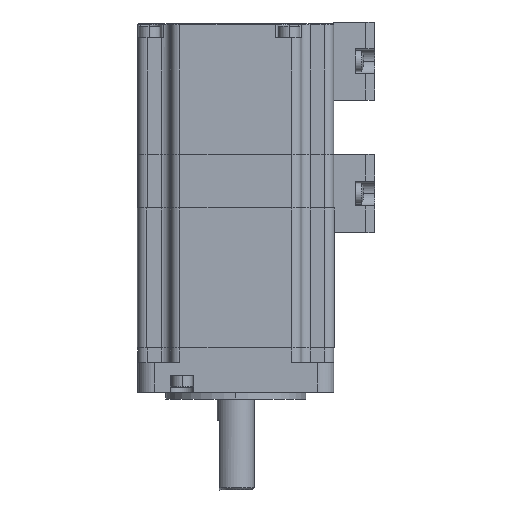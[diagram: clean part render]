
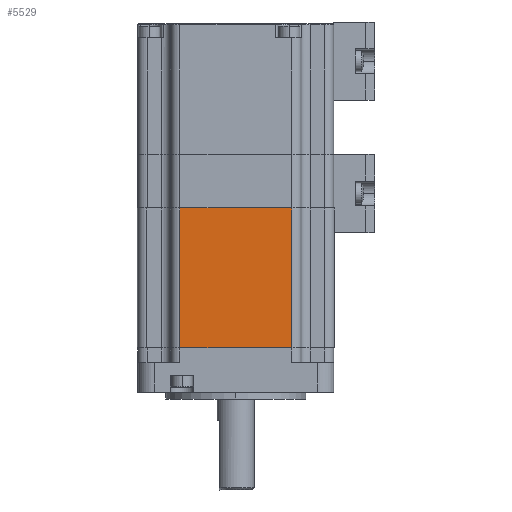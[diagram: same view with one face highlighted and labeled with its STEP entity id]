
A CAD part, left-side view. The second image highlights one B-rep face of the part: STEP entity #5529.
In plain terms, the highlighted planar face has unit normal (-1, 0, 0).
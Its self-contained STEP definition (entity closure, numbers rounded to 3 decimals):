
#194 = VECTOR ( 'NONE', #11176, 1000. ) ;
#822 = LINE ( 'NONE', #8035, #10528 ) ;
#1024 = VERTEX_POINT ( 'NONE', #10308 ) ;
#2651 = CARTESIAN_POINT ( 'NONE',  ( -35.783, 26.542, 0. ) ) ;
#2852 = EDGE_CURVE ( 'NONE', #4892, #7089, #822, .T. ) ;
#2923 = ORIENTED_EDGE ( 'NONE', *, *, #11202, .F. ) ;
#3197 = CARTESIAN_POINT ( 'NONE',  ( -35.783, 2.542, 30. ) ) ;
#4451 = VECTOR ( 'NONE', #8902, 1000. ) ;
#4892 = VERTEX_POINT ( 'NONE', #8899 ) ;
#5529 = ADVANCED_FACE ( 'NONE', ( #8159 ), #14706, .T. ) ;
#5841 = EDGE_CURVE ( 'NONE', #1024, #7089, #7967, .T. ) ;
#6248 = LINE ( 'NONE', #3197, #6663 ) ;
#6663 = VECTOR ( 'NONE', #12475, 1000. ) ;
#7089 = VERTEX_POINT ( 'NONE', #14825 ) ;
#7967 = LINE ( 'NONE', #9771, #4451 ) ;
#8035 = CARTESIAN_POINT ( 'NONE',  ( -35.783, 2.542, 0. ) ) ;
#8159 = FACE_OUTER_BOUND ( 'NONE', #16978, .T. ) ;
#8899 = CARTESIAN_POINT ( 'NONE',  ( -35.783, 2.542, 30. ) ) ;
#8902 = DIRECTION ( 'NONE',  ( 0., -1., 0. ) ) ;
#9734 = LINE ( 'NONE', #16310, #194 ) ;
#9771 = CARTESIAN_POINT ( 'NONE',  ( -35.783, 2.542, 0. ) ) ;
#10010 = CARTESIAN_POINT ( 'NONE',  ( -35.783, 26.542, 30. ) ) ;
#10114 = ORIENTED_EDGE ( 'NONE', *, *, #5841, .T. ) ;
#10308 = CARTESIAN_POINT ( 'NONE',  ( -35.783, 26.542, 0. ) ) ;
#10528 = VECTOR ( 'NONE', #14656, 1000. ) ;
#10577 = DIRECTION ( 'NONE',  ( 0., 0., 1. ) ) ;
#11176 = DIRECTION ( 'NONE',  ( 0., 0., -1. ) ) ;
#11202 = EDGE_CURVE ( 'NONE', #17069, #4892, #6248, .T. ) ;
#12475 = DIRECTION ( 'NONE',  ( 0., -1., 0. ) ) ;
#13302 = ORIENTED_EDGE ( 'NONE', *, *, #13866, .T. ) ;
#13866 = EDGE_CURVE ( 'NONE', #17069, #1024, #9734, .T. ) ;
#14656 = DIRECTION ( 'NONE',  ( 0., 0., -1. ) ) ;
#14706 = PLANE ( 'NONE',  #16077 ) ;
#14825 = CARTESIAN_POINT ( 'NONE',  ( -35.783, 2.542, 0. ) ) ;
#15860 = DIRECTION ( 'NONE',  ( -1., 0., 0. ) ) ;
#16077 = AXIS2_PLACEMENT_3D ( 'NONE', #2651, #15860, #10577 ) ;
#16310 = CARTESIAN_POINT ( 'NONE',  ( -35.783, 26.542, 0. ) ) ;
#16978 = EDGE_LOOP ( 'NONE', ( #10114, #17112, #2923, #13302 ) ) ;
#17069 = VERTEX_POINT ( 'NONE', #10010 ) ;
#17112 = ORIENTED_EDGE ( 'NONE', *, *, #2852, .F. ) ;
